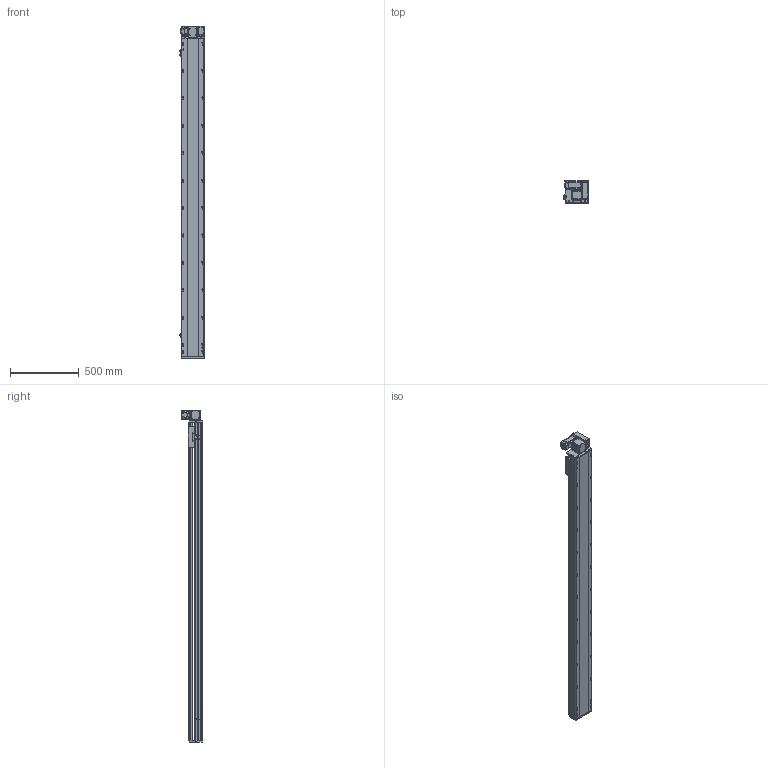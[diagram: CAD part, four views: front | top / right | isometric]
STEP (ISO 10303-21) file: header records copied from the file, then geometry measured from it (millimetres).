
FILE_DESCRIPTION (( 'STEP AP214' ), '1' );
FILE_NAME ('RTB17S-XX-2050-RW-M40-C4.STEP', '2025-12-11T09:07:55', ( '' ), ( '' ), 'SwSTEP 2.0', 'SolidWorks 2018', '' );
FILE_SCHEMA (( 'AUTOMOTIVE_DESIGN' ));
Length unit declared in the file: millimetre
Products named in the file (14): RTB14-L-018P^RTB17S-RW-々湍釱蚾饜-400W_RTB17S-XX-XX-RW-M40-C4; RTB17-R-011菁釱^RTB17S-XX-XX-RW-M40-C4; RTB17S-L-004佪裝蹟譫蟀諉釱^RTB17S-XX-XX-RW-M40-C4; RTB17S-RW-々湍釱蚾饜-400W^RTB17S-XX-XX-RW-M40-C4; RTB17S-L-001耜醱啣^RTB17S-XX-XX-RW-M40-C4; RTB14-L-017P^RTB17S-RW-々湍釱蚾饜-400W_RTB17S-XX-XX-RW-M40-C4; RTB14-L-005P--轴承塑胶压盖^RTB17S-RW-皮带座装配-400W_RTB17S-XX-XX-RW-M40-C4; 400W侜督萇儂^RTB17S-XX-XX-RW-M40-C4; RMP17S-L-014-T20--々湍釱^RTB17S-RW-々湍釱蚾饜-400W_RTB17S-XX-XX-RW-M40-C4; RTB14-L-008-M20--萇儂啣^RTB17S-RW-々湍釱蚾饜-400W_RTB17S-XX-XX-RW-M40-C4; OMRON EE-SX672 传感器^RTB17S-XX-XX-RW-M40-C4; RTB17S-XX-2050-RW-M40-C4; RTB17S-L-007奻裔^RTB17S-XX-XX-RW-M40-C4; RTH13-BL-012覜茼え俋离^RTB17S-XX-XX-RW-M40-C4
Assembly tree (16 placements, depth 3):
  RTB17S-XX-2050-RW-M40-C4
    RTB17-R-011菁釱^RTB17S-XX-XX-RW-M40-C4
    RTB17S-L-007奻裔^RTB17S-XX-XX-RW-M40-C4
    OMRON EE-SX672 传感器^RTB17S-XX-XX-RW-M40-C4  x3
    RTB17S-L-001耜醱啣^RTB17S-XX-XX-RW-M40-C4
    400W侜督萇儂^RTB17S-XX-XX-RW-M40-C4
    RTB17S-L-004佪裝蹟譫蟀諉釱^RTB17S-XX-XX-RW-M40-C4
    RTH13-BL-012覜茼え俋离^RTB17S-XX-XX-RW-M40-C4
    RTB17S-RW-々湍釱蚾饜-400W^RTB17S-XX-XX-RW-M40-C4
      RMP17S-L-014-T20--々湍釱^RTB17S-RW-々湍釱蚾饜-400W_RTB17S-XX-XX-RW-M40-C4
      RTB14-L-005P--轴承塑胶压盖^RTB17S-RW-皮带座装配-400W_RTB17S-XX-XX-RW-M40-C4
      RTB14-L-008-M20--萇儂啣^RTB17S-RW-々湍釱蚾饜-400W_RTB17S-XX-XX-RW-M40-C4
      RTB14-L-017P^RTB17S-RW-々湍釱蚾饜-400W_RTB17S-XX-XX-RW-M40-C4  x2
      RTB14-L-018P^RTB17S-RW-々湍釱蚾饜-400W_RTB17S-XX-XX-RW-M40-C4
Bounding box: 183.5 x 160.5 x 2422.5 mm (x, y, z)
Volume: 20931773.7 mm3; surface area: 2433619.4 mm2
Topology: 15 solids, 15 shells, 2301 faces, 6411 edges, 4185 vertices
Faces by surface type: plane 1080, cylinder 773, bspline 301, cone 139, torus 8
Entity records: 67241 total; most frequent: CARTESIAN_POINT 19016, ORIENTED_EDGE 9666, DIRECTION 8936, EDGE_CURVE 4833, VERTEX_POINT 3173, AXIS2_PLACEMENT_3D 3103, LINE 2730, VECTOR 2730
